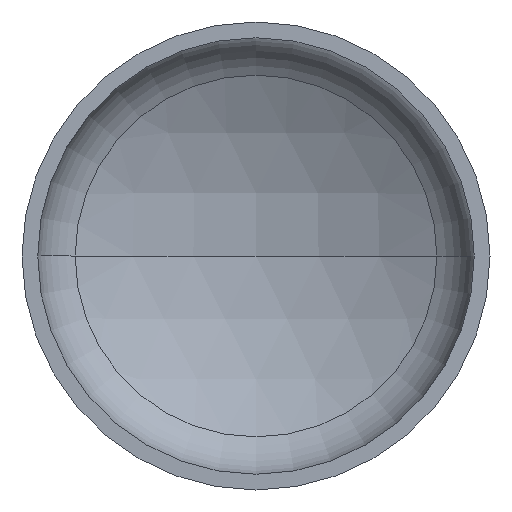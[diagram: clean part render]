
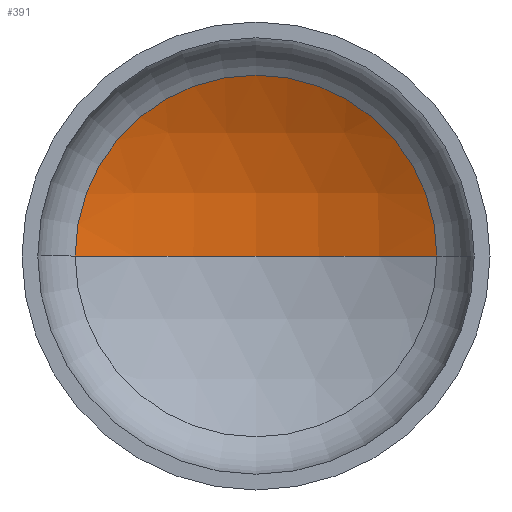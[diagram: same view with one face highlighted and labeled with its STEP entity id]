
A CAD part, front view. The second image highlights one B-rep face of the part: STEP entity #391.
In plain terms, the highlighted spherical face has radius 1760 mm.
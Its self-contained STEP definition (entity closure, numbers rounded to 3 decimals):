
#1 = AXIS2_PLACEMENT_3D ( 'NONE', #101, #314, #405 ) ;
#16 = AXIS2_PLACEMENT_3D ( 'NONE', #128, #259, #372 ) ;
#23 = AXIS2_PLACEMENT_3D ( 'NONE', #115, #116, #123 ) ;
#42 = VERTEX_POINT ( 'NONE', #280 ) ;
#62 = ORIENTED_EDGE ( 'NONE', *, *, #350, .T. ) ;
#88 = CARTESIAN_POINT ( 'NONE',  ( -850.254, 417.692, 0. ) ) ;
#92 = CARTESIAN_POINT ( 'NONE',  ( 850.254, 417.692, 0. ) ) ;
#101 = CARTESIAN_POINT ( 'NONE',  ( 0., -1123.304, 0. ) ) ;
#115 = CARTESIAN_POINT ( 'NONE',  ( 0., 417.692, 0. ) ) ;
#116 = DIRECTION ( 'NONE',  ( 0., -1., 0. ) ) ;
#122 = ORIENTED_EDGE ( 'NONE', *, *, #389, .F. ) ;
#123 = DIRECTION ( 'NONE',  ( 1., 0., 0. ) ) ;
#128 = CARTESIAN_POINT ( 'NONE',  ( 0., -1123.304, 0. ) ) ;
#167 = CIRCLE ( 'NONE', #1, 1760. ) ;
#183 = CARTESIAN_POINT ( 'NONE',  ( 0., -1123.304, 0. ) ) ;
#196 = AXIS2_PLACEMENT_3D ( 'NONE', #183, #409, #266 ) ;
#210 = EDGE_LOOP ( 'NONE', ( #122, #62, #331 ) ) ;
#258 = CIRCLE ( 'NONE', #16, 1760. ) ;
#259 = DIRECTION ( 'NONE',  ( 0., 0., -1. ) ) ;
#266 = DIRECTION ( 'NONE',  ( -1., 0., 0. ) ) ;
#280 = CARTESIAN_POINT ( 'NONE',  ( 0., 636.696, 0. ) ) ;
#306 = SPHERICAL_SURFACE ( 'NONE', #196, 1760. ) ;
#314 = DIRECTION ( 'NONE',  ( 0., 0., 1. ) ) ;
#331 = ORIENTED_EDGE ( 'NONE', *, *, #345, .T. ) ;
#336 = CIRCLE ( 'NONE', #23, 850.254 ) ;
#345 = EDGE_CURVE ( 'NONE', #393, #377, #336, .T. ) ;
#350 = EDGE_CURVE ( 'NONE', #42, #393, #258, .T. ) ;
#366 = FACE_OUTER_BOUND ( 'NONE', #210, .T. ) ;
#372 = DIRECTION ( 'NONE',  ( -1., 0., 0. ) ) ;
#377 = VERTEX_POINT ( 'NONE', #88 ) ;
#389 = EDGE_CURVE ( 'NONE', #42, #377, #167, .T. ) ;
#391 = ADVANCED_FACE ( 'NONE', ( #366 ), #306, .F. ) ;
#393 = VERTEX_POINT ( 'NONE', #92 ) ;
#405 = DIRECTION ( 'NONE',  ( 1., 0., 0. ) ) ;
#409 = DIRECTION ( 'NONE',  ( 0., 0., -1. ) ) ;
